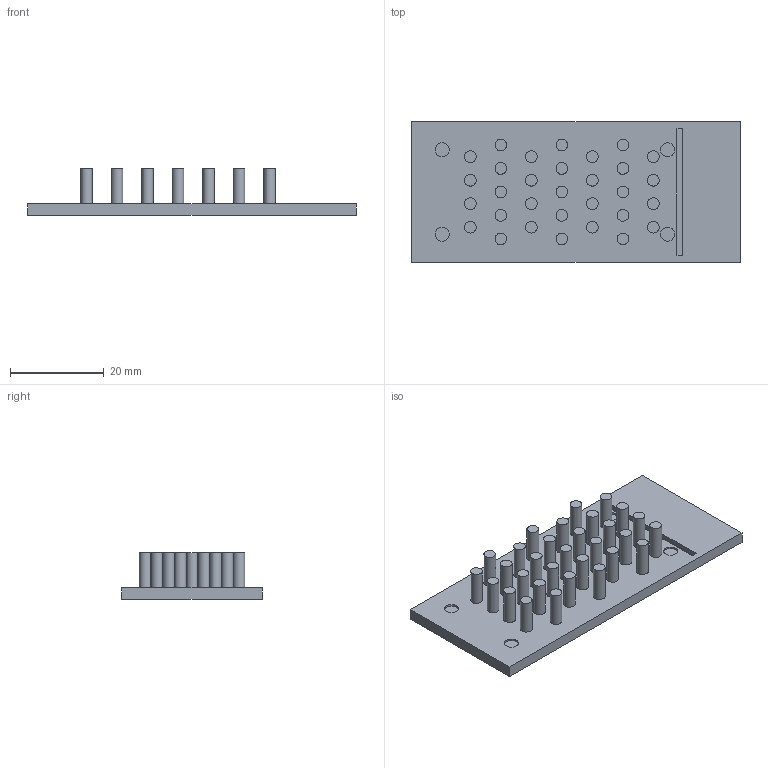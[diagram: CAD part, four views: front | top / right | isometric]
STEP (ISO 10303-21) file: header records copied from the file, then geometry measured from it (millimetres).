
FILE_DESCRIPTION(('Open CASCADE Model'),'2;1');
FILE_NAME('Open CASCADE Shape Model','2026-08-15T00:00:33',('Author'),( 'Open CASCADE'),'Open CASCADE STEP processor 7.9','build123d', 'Unknown');
FILE_SCHEMA(('AUTOMOTIVE_DESIGN { 1 0 10303 214 1 1 1 1 }'));
Length unit declared in the file: millimetre
Products named in the file (1): COMPOUND
Bounding box: 70 x 30 x 10 mm (x, y, z)
Volume: 6325.5 mm3; surface area: 6632.9 mm2
Topology: 1 solids, 1 shells, 87 faces, 138 edges, 92 vertices
Faces by surface type: plane 49, cylinder 38
Full cylindrical faces by diameter (mm): 2.5 x34, 3 x4
Entity records: 3804 total; most frequent: DIRECTION 658, CARTESIAN_POINT 602, ORIENTED_EDGE 276, PCURVE 276, DEFINITIONAL_REPRESENTATION 276, LINE 254, VECTOR 254, AXIS2_PLACEMENT_3D 164
